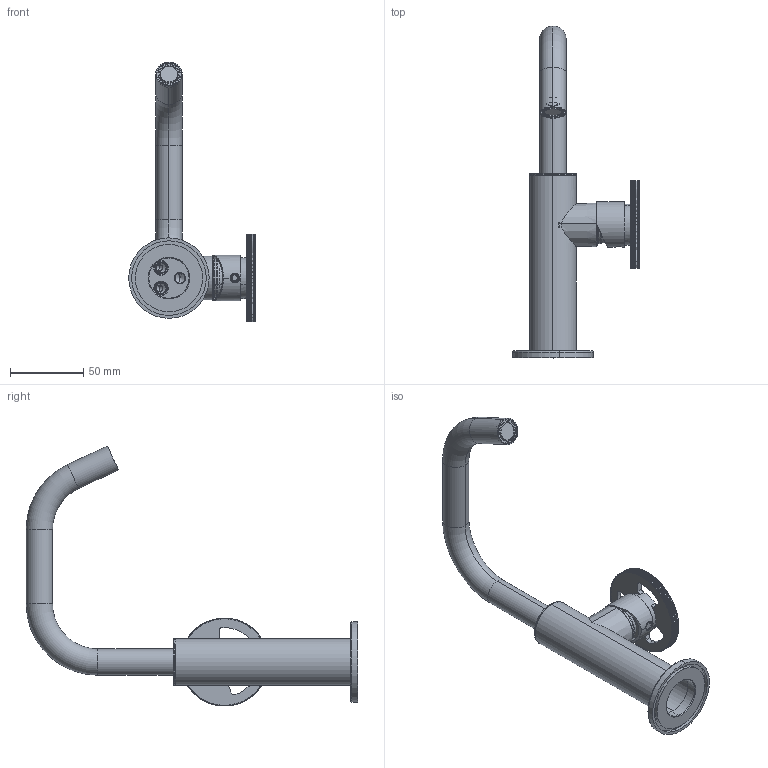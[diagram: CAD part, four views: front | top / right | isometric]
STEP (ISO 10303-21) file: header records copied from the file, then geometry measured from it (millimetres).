
FILE_DESCRIPTION (( 'STEP AP203' ), '1' );
FILE_NAME ('TIB1MC.STEP', '2019-10-25T07:54:59', ( '' ), ( '' ), 'SwSTEP 2.0', 'SolidWorks 2019', '' );
FILE_SCHEMA (( 'CONFIG_CONTROL_DESIGN' ));
Length unit declared in the file: millimetre
Products named in the file (21): C47.00.0023.01; EU1476_0; EU1464_0; AS543_00; EU0648_1; OR992262ACS; EU0370_3; AS539_00; EU0120_0; AERA161INC; EU0119_2; EU0371_2; EU0649_0; EU1473_2; CARTBAG016; GRANO M4X3; GRANO M5x6; EU0029_1; TIB1MC; EU0824_ZA; OR212ACS
Assembly tree (22 placements, depth 4):
  TIB1MC
    GRANO M4X3
    EU1473_2
    AS539_00
      EU0370_3
      EU0371_2
      EU0120_0
      EU0119_2
      GRANO M5x6
      EU0029_1
      EU0824_ZA
      OR212ACS
      OR992262ACS  x2
      EU0649_0  x2
      EU0648_1
      AS543_00
        EU1464_0
        EU1476_0
      CARTBAG016
      C47.00.0023.01
    AERA161INC
Bounding box: 86.51 x 226.77 x 177.64 mm (x, y, z)
Volume: 104664.8 mm3; surface area: 94455.3 mm2
Topology: 19 solids, 29 shells, 1712 faces, 4842 edges, 3169 vertices
Faces by surface type: plane 736, cylinder 632, cone 198, bspline 86, torus 60
Entity records: 61766 total; most frequent: CARTESIAN_POINT 16647, ORIENTED_EDGE 9012, DIRECTION 8777, EDGE_CURVE 4736, VERTEX_POINT 3121, AXIS2_PLACEMENT_3D 3120, LINE 2537, VECTOR 2537
